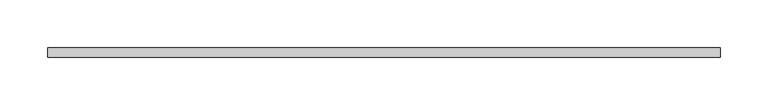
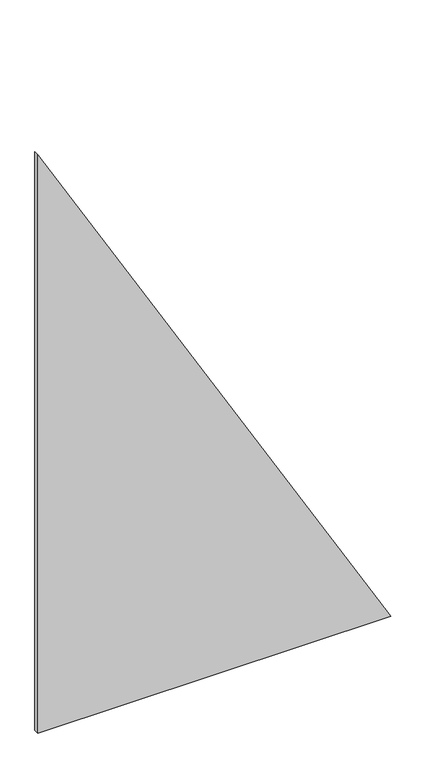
"""IFC4 building model written with IfcOpenShell, lengths in millimetres: plate geometry, 系統嵌板 : 玻璃 1.0cm."""

from ifc_helpers import new_model, si_unit, frame, origin, place, context, project, spatial, polyline, outline, extrude, source, transform, mapped, element, save


def plate_6fdf89d2(model_context):
    return source(origin(), model_context, "Body", "SweptSolid", [
        extrude(outline(polyline([(0.0, -353.6297108), (0.0, 353.6297108), (1225.0092524, -353.6297108), (0.0, -353.6297108)])), frame((0.0, -5.0, 0.0), z_axis=(0.0, 1.0, 0.0), x_axis=(0.0, 0.0, 1.0)), (0.0, 0.0, 1.0), 10.0),
    ])


if __name__ == "__main__":
    model = new_model("IFC4")
    model_context = context("Model", 3, world=origin())
    ifc_project = project(units=[si_unit("LENGTHUNIT", "METRE", prefix="MILLI")], contexts=[model_context])
    site = spatial("IfcSite", under=ifc_project)
    building = spatial("IfcBuilding", under=site)
    placement = place(None, origin())
    plate_shape = plate_6fdf89d2(model_context)
    element("IfcPlate", 1, ObjectType="系統嵌板 : 玻璃 1.0cm", at=placement, inside=building, context=model_context, shape_type="MappedRepresentation", body=[
        mapped(plate_shape, transform((0.0, 0.0, 0.0), x_axis=(1.0, 0.0, 0.0), y_axis=(0.0, 1.0, 0.0), z_axis=(0.0, 0.0, 1.0))),
    ])
    save(model, "model.ifc")
